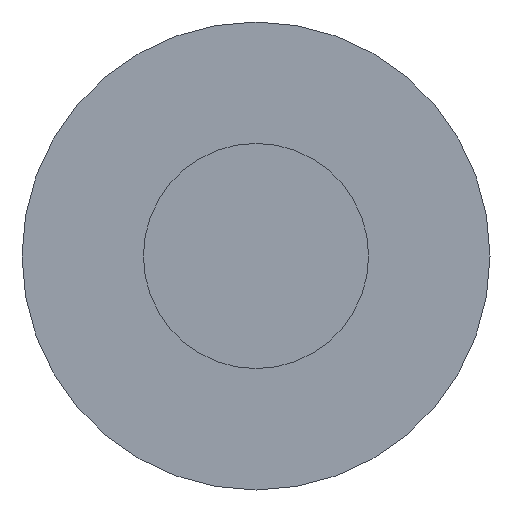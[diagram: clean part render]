
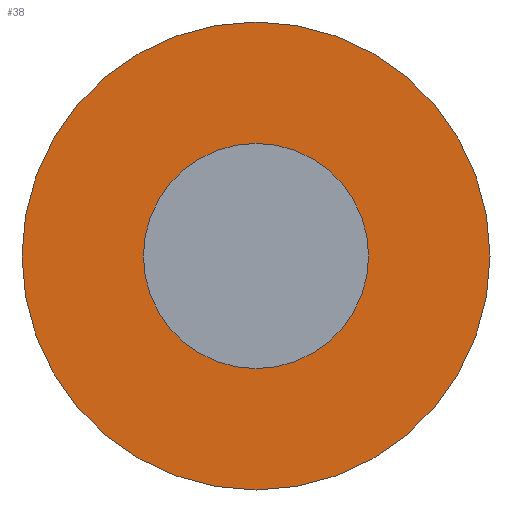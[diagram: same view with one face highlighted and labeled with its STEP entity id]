
A CAD part, front view. The second image highlights one B-rep face of the part: STEP entity #38.
In plain terms, the highlighted planar face has unit normal (0, -1, 0).
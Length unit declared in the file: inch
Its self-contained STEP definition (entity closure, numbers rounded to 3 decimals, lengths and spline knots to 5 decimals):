
#1 = AXIS2_PLACEMENT_3D ( 'NONE', #113, #197, #111 ) ;
#16 = CARTESIAN_POINT ( 'NONE',  ( 0., -0.25084, -0.095 ) ) ;
#19 = AXIS2_PLACEMENT_3D ( 'NONE', #170, #65, #169 ) ;
#21 = CARTESIAN_POINT ( 'NONE',  ( 0., -0.25084, 0.1975 ) ) ;
#38 = ADVANCED_FACE ( 'NONE', ( #192, #275 ), #103, .T. ) ;
#39 = VERTEX_POINT ( 'NONE', #21 ) ;
#40 = AXIS2_PLACEMENT_3D ( 'NONE', #278, #367, #44 ) ;
#41 = EDGE_LOOP ( 'NONE', ( #171, #284 ) ) ;
#43 = CARTESIAN_POINT ( 'NONE',  ( 0., -0.25084, -0.1975 ) ) ;
#44 = DIRECTION ( 'NONE',  ( 0., 0., -1. ) ) ;
#62 = EDGE_CURVE ( 'NONE', #269, #240, #360, .T. ) ;
#65 = DIRECTION ( 'NONE',  ( 0., -1., 0. ) ) ;
#76 = VERTEX_POINT ( 'NONE', #43 ) ;
#98 = ORIENTED_EDGE ( 'NONE', *, *, #124, .F. ) ;
#103 = PLANE ( 'NONE',  #1 ) ;
#111 = DIRECTION ( 'NONE',  ( 0., 0., -1. ) ) ;
#113 = CARTESIAN_POINT ( 'NONE',  ( 0., -0.25084, -0.095 ) ) ;
#114 = EDGE_CURVE ( 'NONE', #39, #76, #357, .T. ) ;
#124 = EDGE_CURVE ( 'NONE', #240, #269, #233, .T. ) ;
#167 = DIRECTION ( 'NONE',  ( 0., -1., 0. ) ) ;
#168 = EDGE_CURVE ( 'NONE', #76, #39, #285, .T. ) ;
#169 = DIRECTION ( 'NONE',  ( 0., 0., -1. ) ) ;
#170 = CARTESIAN_POINT ( 'NONE',  ( 0., -0.25084, 0. ) ) ;
#171 = ORIENTED_EDGE ( 'NONE', *, *, #168, .T. ) ;
#175 = CARTESIAN_POINT ( 'NONE',  ( 0., -0.25084, 0. ) ) ;
#192 = FACE_OUTER_BOUND ( 'NONE', #41, .T. ) ;
#195 = AXIS2_PLACEMENT_3D ( 'NONE', #310, #203, #199 ) ;
#197 = DIRECTION ( 'NONE',  ( 0., -1., 0. ) ) ;
#199 = DIRECTION ( 'NONE',  ( 0., 0., -1. ) ) ;
#203 = DIRECTION ( 'NONE',  ( 0., -1., 0. ) ) ;
#233 = CIRCLE ( 'NONE', #195, 0.095 ) ;
#240 = VERTEX_POINT ( 'NONE', #319 ) ;
#269 = VERTEX_POINT ( 'NONE', #16 ) ;
#275 = FACE_BOUND ( 'NONE', #290, .T. ) ;
#278 = CARTESIAN_POINT ( 'NONE',  ( 0., -0.25084, 0. ) ) ;
#284 = ORIENTED_EDGE ( 'NONE', *, *, #114, .T. ) ;
#285 = CIRCLE ( 'NONE', #339, 0.1975 ) ;
#290 = EDGE_LOOP ( 'NONE', ( #345, #98 ) ) ;
#310 = CARTESIAN_POINT ( 'NONE',  ( 0., -0.25084, 0. ) ) ;
#319 = CARTESIAN_POINT ( 'NONE',  ( 0., -0.25084, 0.095 ) ) ;
#339 = AXIS2_PLACEMENT_3D ( 'NONE', #175, #167, #347 ) ;
#345 = ORIENTED_EDGE ( 'NONE', *, *, #62, .F. ) ;
#347 = DIRECTION ( 'NONE',  ( 0., 0., -1. ) ) ;
#357 = CIRCLE ( 'NONE', #19, 0.1975 ) ;
#360 = CIRCLE ( 'NONE', #40, 0.095 ) ;
#367 = DIRECTION ( 'NONE',  ( 0., -1., 0. ) ) ;
